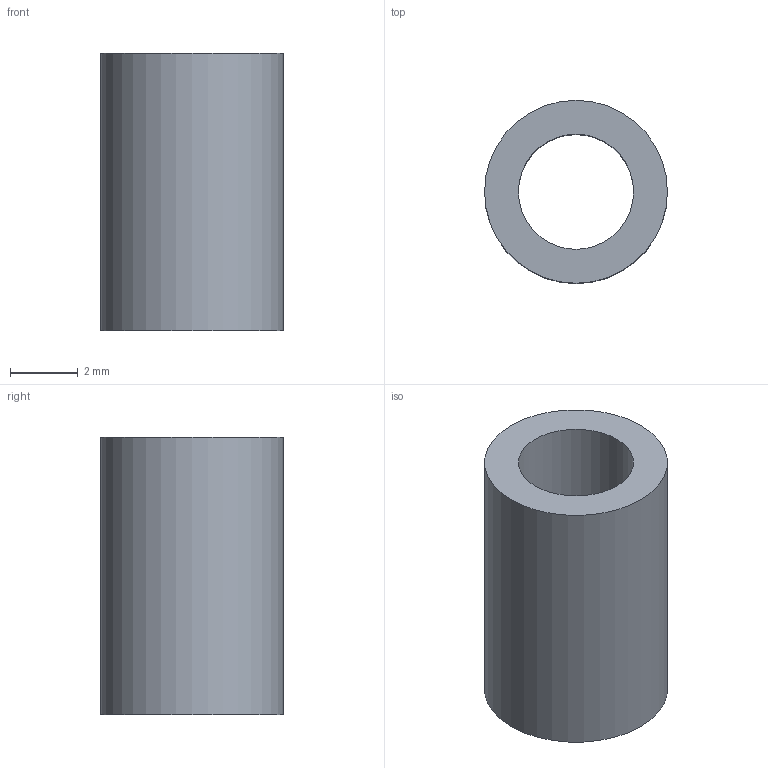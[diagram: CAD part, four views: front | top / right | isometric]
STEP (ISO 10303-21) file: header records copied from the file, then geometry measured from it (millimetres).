
FILE_DESCRIPTION(('Open CASCADE Model'),'2;1');
FILE_NAME('Open CASCADE Shape Model','2026-10-12T22:10:17',('Author'),( 'Open CASCADE'),'Open CASCADE STEP processor 7.9','Open CASCADE 7.9' ,'Unknown');
FILE_SCHEMA(('AUTOMOTIVE_DESIGN { 1 0 10303 214 1 1 1 1 }'));
Length unit declared in the file: millimetre
Products named in the file (1): Open CASCADE STEP translator 7.9 19
Bounding box: 5.4 x 5.4 x 8.2 mm (x, y, z)
Volume: 113.3 mm3; surface area: 254.3 mm2
Topology: 1 solids, 1 shells, 4 faces, 6 edges, 4 vertices
Faces by surface type: cylinder 2, plane 2
Full cylindrical faces by diameter (mm): 3.4 x1, 5.4 x1
Entity records: 186 total; most frequent: DIRECTION 32, CARTESIAN_POINT 27, ORIENTED_EDGE 12, PCURVE 12, DEFINITIONAL_REPRESENTATION 12, LINE 10, VECTOR 10, AXIS2_PLACEMENT_3D 9
